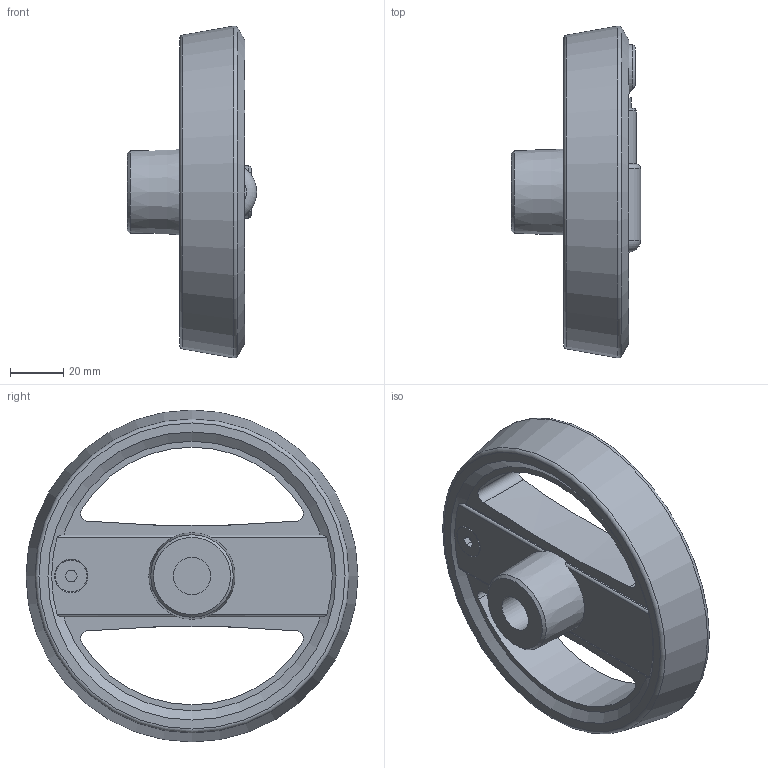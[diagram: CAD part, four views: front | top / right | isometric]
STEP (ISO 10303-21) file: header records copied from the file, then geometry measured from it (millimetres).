
FILE_DESCRIPTION( ( 'STEP AP203' ), '1' );
FILE_NAME( 'C:/Temp/Ganter_Step_05_03_2020/data/1_3/gn_924_7/gn_924_7_b/Handwheel with retractable handle GN 924.7-125-B14-R-SW (unactivated).stp', '2020-03-05T10:41:27', ( 'License CC BY-ND 4.0' ), ( 'CADENAS' ), ' ', 'PARTsolutions', ' ' );
FILE_SCHEMA( ( 'CONFIG_CONTROL_DESIGN' ) );
Length unit declared in the file: millimetre
Products named in the file (3): Handwheel with retractable handle GN 924.7-125-B14-R-SW (unactivated); _Umleggriff-Handrad GN 924.7-125-B14-R-SW-1; _Umleggriff-Handrad GN 924.7-125-B14-R-SW (0)-2
Assembly tree (2 placements, depth 2):
  Handwheel with retractable handle GN 924.7-125-B14-R-SW (unactivated)
    _Umleggriff-Handrad GN 924.7-125-B14-R-SW-1
    _Umleggriff-Handrad GN 924.7-125-B14-R-SW (0)-2
Bounding box: 48.7 x 125 x 125 mm (x, y, z)
Volume: 165257.5 mm3; surface area: 51489.8 mm2
Topology: 2 solids, 2 shells, 103 faces, 264 edges, 169 vertices
Faces by surface type: plane 43, cylinder 39, cone 11, torus 8, sphere 2
Full cylindrical faces by diameter (mm): 4 x4, 5 x1, 8 x1, 12 x1, 14 x1, 15 x1, 18.5 x1, 20 x1, 22 x1, 24 x1, 25.6 x1
Entity records: 3386 total; most frequent: CARTESIAN_POINT 975, DIRECTION 478, ORIENTED_EDGE 432, EDGE_CURVE 216, AXIS2_PLACEMENT_3D 200, VERTEX_POINT 159, EDGE_LOOP 156, FACE_OUTER_BOUND 124
